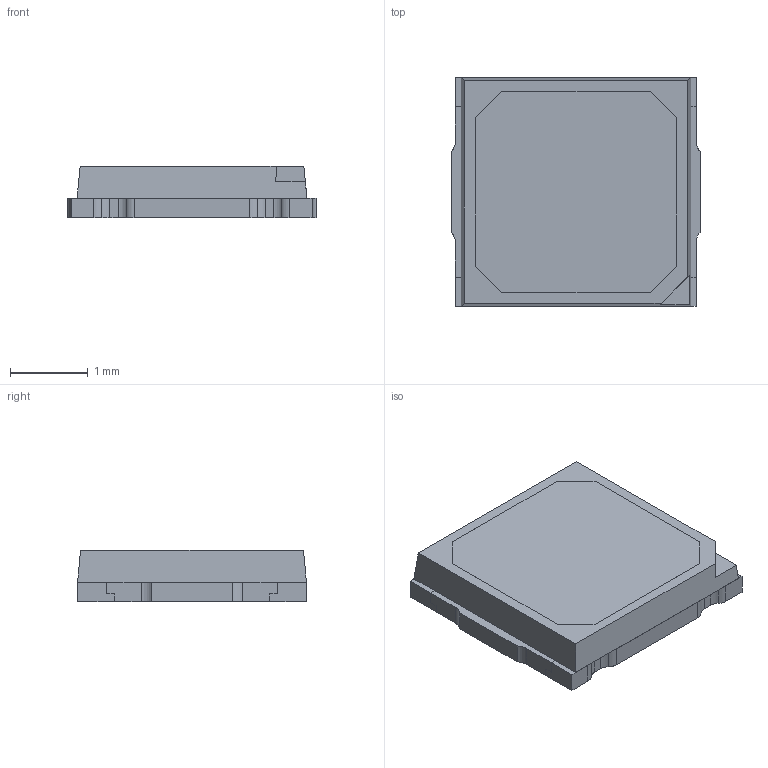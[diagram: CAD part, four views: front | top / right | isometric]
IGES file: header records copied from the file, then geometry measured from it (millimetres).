
Start section: SolidWorks IGES file using analytic representation for surfaces
Global section: file name: C:\Users\user\Desktop\XYY\1-车灯产品3D图汇总\3030\3030\0.2W\W\光学模型\LWV.IGS; native system: SolidWorks 2022; preprocessor: SolidWorks 2022; author: user; date: 250322.190355; units: millimetre
Bounding box: 3.2 x 2.95 x 0.66 mm (x, y, z)
Surface area: 50.4 mm2 (no closed solid volume)
Topology: 0 solids, 0 shells, 156 faces, 1522 edges, 1962 vertices
Faces by surface type: bspline 87, revolution 69
